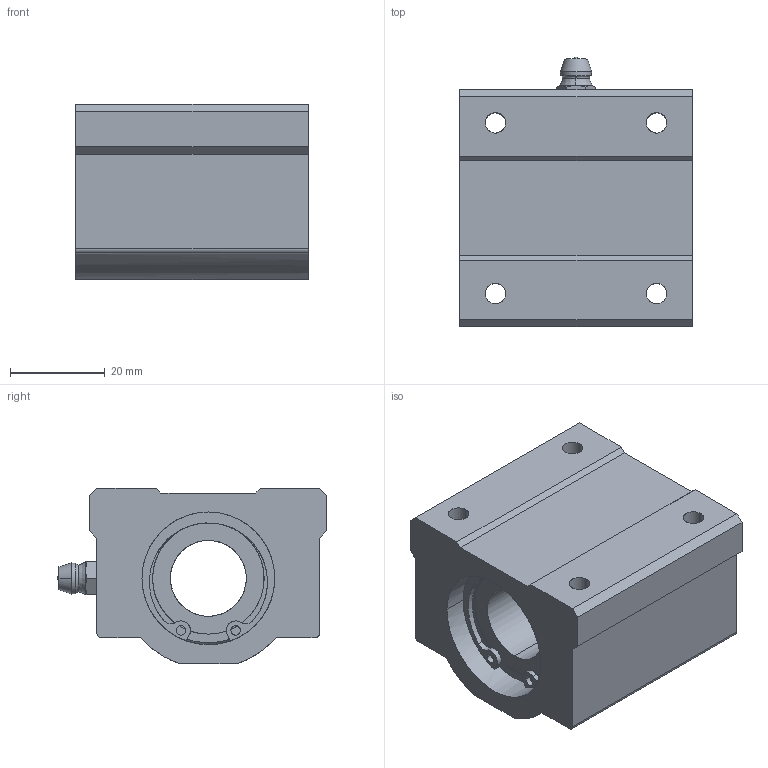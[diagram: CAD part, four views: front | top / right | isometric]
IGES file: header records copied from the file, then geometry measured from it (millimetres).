
Global section: file name: No Iges File Name specified; native system: AutoDesk Inventor R10; preprocessor: AutoDesk Inventor Iges Exporter R10; author: No Author specified; organization: No Organization specified; date: 20101214.143330; units: millimetre
Bounding box: 49 x 56.9 x 37 mm (x, y, z)
Surface area: 16687.2 mm2 (no closed solid volume)
Topology: 0 solids, 0 shells, 130 faces, 890 edges, 886 vertices
Faces by surface type: bspline 130
